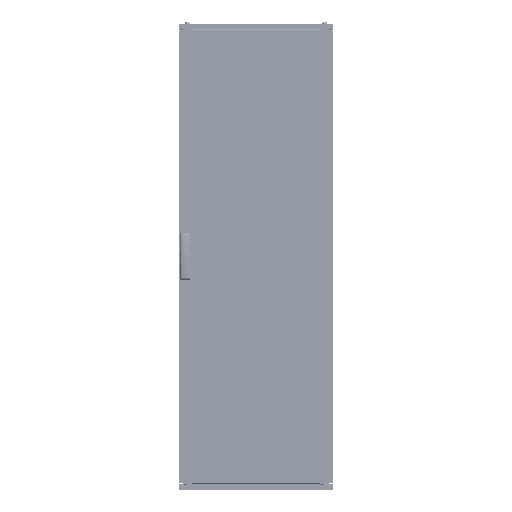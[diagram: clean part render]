
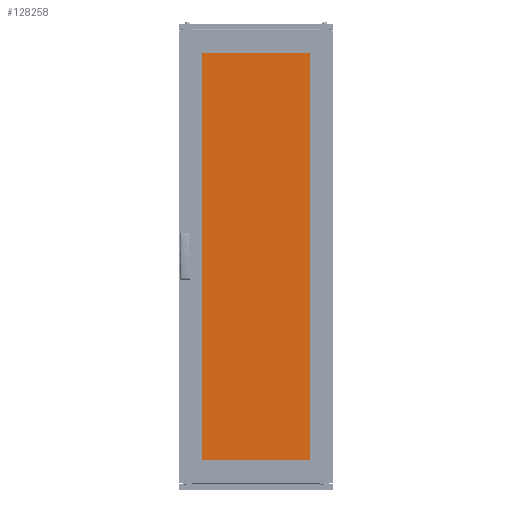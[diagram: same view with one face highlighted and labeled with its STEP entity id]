
A CAD part, top view. The second image highlights one B-rep face of the part: STEP entity #128258.
In plain terms, the highlighted planar face has unit normal (0, 0, 1).
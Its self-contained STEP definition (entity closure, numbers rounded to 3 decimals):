
#4596 = ORIENTED_EDGE ( 'NONE', *, *, #169117, .T. ) ;
#5608 = LINE ( 'NONE', #152025, #178051 ) ;
#5641 = AXIS2_PLACEMENT_3D ( 'NONE', #131668, #182129, #130559 ) ;
#19759 = VERTEX_POINT ( 'NONE', #165063 ) ;
#22041 = CARTESIAN_POINT ( 'NONE',  ( -230., 810., 5. ) ) ;
#33796 = DIRECTION ( 'NONE',  ( 0., 1., 0. ) ) ;
#36670 = DIRECTION ( 'NONE',  ( -1., 0., 0. ) ) ;
#38343 = EDGE_CURVE ( 'NONE', #90175, #104770, #88323, .T. ) ;
#46789 = CARTESIAN_POINT ( 'NONE',  ( -230., -810., 5. ) ) ;
#62851 = ORIENTED_EDGE ( 'NONE', *, *, #221409, .T. ) ;
#70485 = ORIENTED_EDGE ( 'NONE', *, *, #38343, .T. ) ;
#73718 = CARTESIAN_POINT ( 'NONE',  ( -230., 810., 5. ) ) ;
#78997 = EDGE_CURVE ( 'NONE', #208670, #19759, #5608, .T. ) ;
#80502 = DIRECTION ( 'NONE',  ( 0., -1., 0. ) ) ;
#83410 = CARTESIAN_POINT ( 'NONE',  ( -230., -810., 5. ) ) ;
#88323 = LINE ( 'NONE', #22041, #161635 ) ;
#90175 = VERTEX_POINT ( 'NONE', #165906 ) ;
#103250 = EDGE_LOOP ( 'NONE', ( #62851, #70485, #4596, #122747 ) ) ;
#104770 = VERTEX_POINT ( 'NONE', #73718 ) ;
#112534 = CARTESIAN_POINT ( 'NONE',  ( 230., -810., 5. ) ) ;
#121678 = VECTOR ( 'NONE', #33796, 1000. ) ;
#122747 = ORIENTED_EDGE ( 'NONE', *, *, #78997, .T. ) ;
#128258 = ADVANCED_FACE ( 'NONE', ( #179960 ), #215776, .F. ) ;
#129439 = LINE ( 'NONE', #112534, #121678 ) ;
#130559 = DIRECTION ( 'NONE',  ( -1., 0., 0. ) ) ;
#131668 = CARTESIAN_POINT ( 'NONE',  ( 0., 0., 5. ) ) ;
#148724 = VECTOR ( 'NONE', #80502, 1000. ) ;
#152025 = CARTESIAN_POINT ( 'NONE',  ( -230., -810., 5. ) ) ;
#161635 = VECTOR ( 'NONE', #36670, 1000. ) ;
#163667 = LINE ( 'NONE', #46789, #148724 ) ;
#165063 = CARTESIAN_POINT ( 'NONE',  ( 230., -810., 5. ) ) ;
#165906 = CARTESIAN_POINT ( 'NONE',  ( 230., 810., 5. ) ) ;
#169117 = EDGE_CURVE ( 'NONE', #104770, #208670, #163667, .T. ) ;
#178051 = VECTOR ( 'NONE', #209918, 1000. ) ;
#179960 = FACE_OUTER_BOUND ( 'NONE', #103250, .T. ) ;
#182129 = DIRECTION ( 'NONE',  ( 0., 0., -1. ) ) ;
#208670 = VERTEX_POINT ( 'NONE', #83410 ) ;
#209918 = DIRECTION ( 'NONE',  ( 1., 0., 0. ) ) ;
#215776 = PLANE ( 'NONE',  #5641 ) ;
#221409 = EDGE_CURVE ( 'NONE', #19759, #90175, #129439, .T. ) ;
